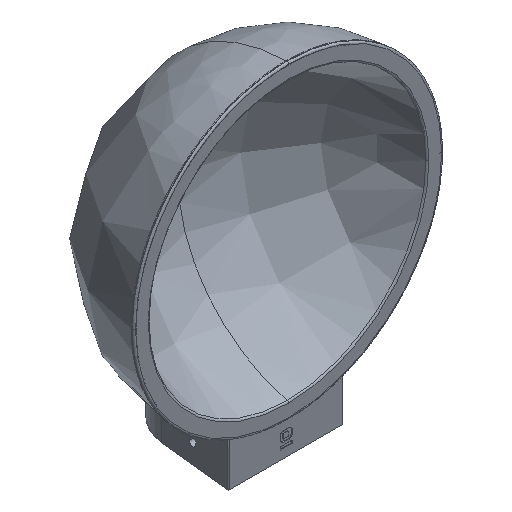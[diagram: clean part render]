
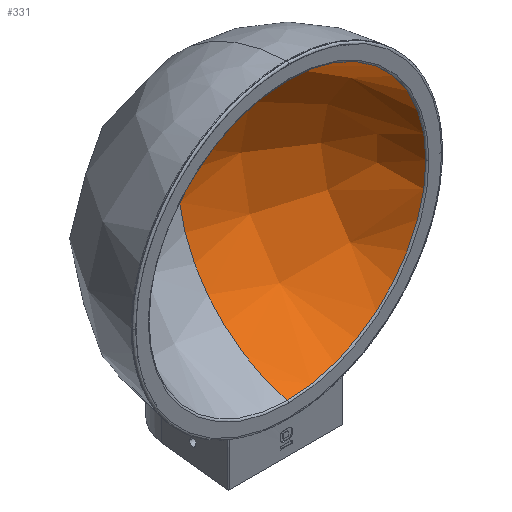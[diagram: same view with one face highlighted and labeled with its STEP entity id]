
A CAD part, isometric view. The second image highlights one B-rep face of the part: STEP entity #331.
In plain terms, the highlighted free-form (B-spline) face has degree [2, 2] with [5, 9] control points.
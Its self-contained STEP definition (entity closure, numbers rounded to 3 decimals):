
#49=(
BOUNDED_SURFACE()
B_SPLINE_SURFACE(2,2,((#8316,#8317,#8318,#8319,#8320,#8321,#8322,#8323,
#8324),(#8325,#8326,#8327,#8328,#8329,#8330,#8331,#8332,#8333),(#8334,#8335,
#8336,#8337,#8338,#8339,#8340,#8341,#8342),(#8343,#8344,#8345,#8346,#8347,
#8348,#8349,#8350,#8351),(#8352,#8353,#8354,#8355,#8356,#8357,#8358,#8359,
#8360)),.UNSPECIFIED.,.F.,.F.,.F.)
B_SPLINE_SURFACE_WITH_KNOTS((3,2,3),(3,2,2,2,3),(0.,253.049,506.098),
(0.,253.049,506.098,759.147,1012.196),
 .UNSPECIFIED.)
GEOMETRIC_REPRESENTATION_ITEM()
RATIONAL_B_SPLINE_SURFACE(((1.,0.707,1.,0.707,1.,
0.707,1.,0.707,1.),(0.707,0.5,0.707,
0.5,0.707,0.5,0.707,0.5,0.707),(1.,
0.707,1.,0.707,1.,0.707,1.,0.707,
1.),(0.707,0.5,0.707,0.5,0.707,0.5,
0.707,0.5,0.707),(1.,0.707,1.,0.707,
1.,0.707,1.,0.707,1.)))
REPRESENTATION_ITEM('')
SURFACE()
);
#331=ADVANCED_FACE('',(#588),#49,.T.);
#588=FACE_OUTER_BOUND('',#869,.T.);
#869=EDGE_LOOP('',(#1794,#1795,#1796,#1797,#1798));
#1794=ORIENTED_EDGE('',*,*,#2727,.T.);
#1795=ORIENTED_EDGE('',*,*,#2724,.T.);
#1796=ORIENTED_EDGE('',*,*,#2732,.F.);
#1797=ORIENTED_EDGE('',*,*,#2731,.F.);
#1798=ORIENTED_EDGE('',*,*,#2726,.T.);
#2724=EDGE_CURVE('',#4167,#4236,#3140,.T.);
#2726=EDGE_CURVE('',#4237,#4169,#3142,.T.);
#2727=EDGE_CURVE('',#4169,#4167,#3143,.T.);
#2731=EDGE_CURVE('',#4237,#4241,#3147,.T.);
#2732=EDGE_CURVE('',#4241,#4236,#3148,.T.);
#3140=TRIMMED_CURVE($,#3434,(#11103),(#11104),.T.,.CARTESIAN.);
#3142=TRIMMED_CURVE($,#3436,(#11109),(#11110),.T.,.CARTESIAN.);
#3143=TRIMMED_CURVE($,#3437,(#11112),(#11113),.T.,.CARTESIAN.);
#3147=TRIMMED_CURVE($,#3441,(#11124),(#11125),.T.,.CARTESIAN.);
#3148=TRIMMED_CURVE($,#3442,(#11127),(#11128),.T.,.CARTESIAN.);
#3434=CIRCLE('',#5329,161.096);
#3436=CIRCLE('',#5331,161.096);
#3437=CIRCLE('',#5332,30.5);
#3441=CIRCLE('',#5336,156.64);
#3442=CIRCLE('',#5337,156.64);
#4167=VERTEX_POINT('',#9777);
#4169=VERTEX_POINT('',#9779);
#4236=VERTEX_POINT('',#9846);
#4237=VERTEX_POINT('',#9847);
#4241=VERTEX_POINT('',#9851);
#5329=AXIS2_PLACEMENT_3D($,#11102,#5988,#5989);
#5331=AXIS2_PLACEMENT_3D($,#11108,#5992,#5993);
#5332=AXIS2_PLACEMENT_3D($,#11111,#5994,#5995);
#5336=AXIS2_PLACEMENT_3D($,#11123,#6002,#6003);
#5337=AXIS2_PLACEMENT_3D($,#11126,#6004,#6005);
#5988=DIRECTION('',(-1.,0.,0.));
#5989=DIRECTION('',(0.,0.863,0.505));
#5992=DIRECTION('',(-1.,0.,0.));
#5993=DIRECTION('',(0.,0.234,0.972));
#5994=DIRECTION('',(0.,0.752,0.66));
#5995=DIRECTION('',(0.,-0.66,0.752));
#6002=DIRECTION('',(0.,1.,0.));
#6003=DIRECTION('',(0.,0.,1.));
#6004=DIRECTION('',(0.,1.,0.));
#6005=DIRECTION('',(1.,0.,0.));
#8316=CARTESIAN_POINT('',(-160.096,-38.096,213.));
#8317=CARTESIAN_POINT('',(-160.096,-38.096,213.));
#8318=CARTESIAN_POINT('',(-160.096,-38.096,213.));
#8319=CARTESIAN_POINT('',(-160.096,-38.096,213.));
#8320=CARTESIAN_POINT('',(-160.096,-38.096,213.));
#8321=CARTESIAN_POINT('',(-160.096,-38.096,213.));
#8322=CARTESIAN_POINT('',(-160.096,-38.096,213.));
#8323=CARTESIAN_POINT('',(-160.096,-38.096,213.));
#8324=CARTESIAN_POINT('',(-160.096,-38.096,213.));
#8325=CARTESIAN_POINT('',(-160.096,-199.192,213.));
#8326=CARTESIAN_POINT('',(-160.096,-199.192,51.904));
#8327=CARTESIAN_POINT('',(-160.096,-38.096,51.904));
#8328=CARTESIAN_POINT('',(-160.096,123.,51.904));
#8329=CARTESIAN_POINT('',(-160.096,123.,213.));
#8330=CARTESIAN_POINT('',(-160.096,123.,374.096));
#8331=CARTESIAN_POINT('',(-160.096,-38.096,374.096));
#8332=CARTESIAN_POINT('',(-160.096,-199.192,374.096));
#8333=CARTESIAN_POINT('',(-160.096,-199.192,213.));
#8334=CARTESIAN_POINT('',(1.,-199.192,213.));
#8335=CARTESIAN_POINT('',(1.,-199.192,51.904));
#8336=CARTESIAN_POINT('',(1.,-38.096,51.904));
#8337=CARTESIAN_POINT('',(1.,123.,51.904));
#8338=CARTESIAN_POINT('',(1.,123.,213.));
#8339=CARTESIAN_POINT('',(1.,123.,374.096));
#8340=CARTESIAN_POINT('',(1.,-38.096,374.096));
#8341=CARTESIAN_POINT('',(1.,-199.192,374.096));
#8342=CARTESIAN_POINT('',(1.,-199.192,213.));
#8343=CARTESIAN_POINT('',(162.096,-199.192,213.));
#8344=CARTESIAN_POINT('',(162.096,-199.192,51.904));
#8345=CARTESIAN_POINT('',(162.096,-38.096,51.904));
#8346=CARTESIAN_POINT('',(162.096,123.,51.904));
#8347=CARTESIAN_POINT('',(162.096,123.,213.));
#8348=CARTESIAN_POINT('',(162.096,123.,374.096));
#8349=CARTESIAN_POINT('',(162.096,-38.096,374.096));
#8350=CARTESIAN_POINT('',(162.096,-199.192,374.096));
#8351=CARTESIAN_POINT('',(162.096,-199.192,213.));
#8352=CARTESIAN_POINT('',(162.096,-38.096,213.));
#8353=CARTESIAN_POINT('',(162.096,-38.096,213.));
#8354=CARTESIAN_POINT('',(162.096,-38.096,213.));
#8355=CARTESIAN_POINT('',(162.096,-38.096,213.));
#8356=CARTESIAN_POINT('',(162.096,-38.096,213.));
#8357=CARTESIAN_POINT('',(162.096,-38.096,213.));
#8358=CARTESIAN_POINT('',(162.096,-38.096,213.));
#8359=CARTESIAN_POINT('',(162.096,-38.096,213.));
#8360=CARTESIAN_POINT('',(162.096,-38.096,213.));
#9777=CARTESIAN_POINT('',(1.,100.925,294.395));
#9779=CARTESIAN_POINT('',(1.,60.695,340.249));
#9846=CARTESIAN_POINT('',(1.,-0.467,56.36));
#9847=CARTESIAN_POINT('',(1.,-0.467,369.64));
#9851=CARTESIAN_POINT('',(157.64,-0.467,213.));
#11102=CARTESIAN_POINT('',(1.,-38.096,213.));
#11103=CARTESIAN_POINT('',(1.,100.925,294.395));
#11104=CARTESIAN_POINT('',(1.,-0.467,56.36));
#11108=CARTESIAN_POINT('',(1.,-38.096,213.));
#11109=CARTESIAN_POINT('',(1.,-0.467,369.64));
#11110=CARTESIAN_POINT('',(1.,60.695,340.249));
#11111=CARTESIAN_POINT('',(1.,80.81,317.322));
#11112=CARTESIAN_POINT('',(1.,60.695,340.249));
#11113=CARTESIAN_POINT('',(1.,100.925,294.395));
#11123=CARTESIAN_POINT('',(1.,-0.467,213.));
#11124=CARTESIAN_POINT('',(1.,-0.467,369.64));
#11125=CARTESIAN_POINT('',(157.64,-0.467,213.));
#11126=CARTESIAN_POINT('',(1.,-0.467,213.));
#11127=CARTESIAN_POINT('',(157.64,-0.467,213.));
#11128=CARTESIAN_POINT('',(1.,-0.467,56.36));
